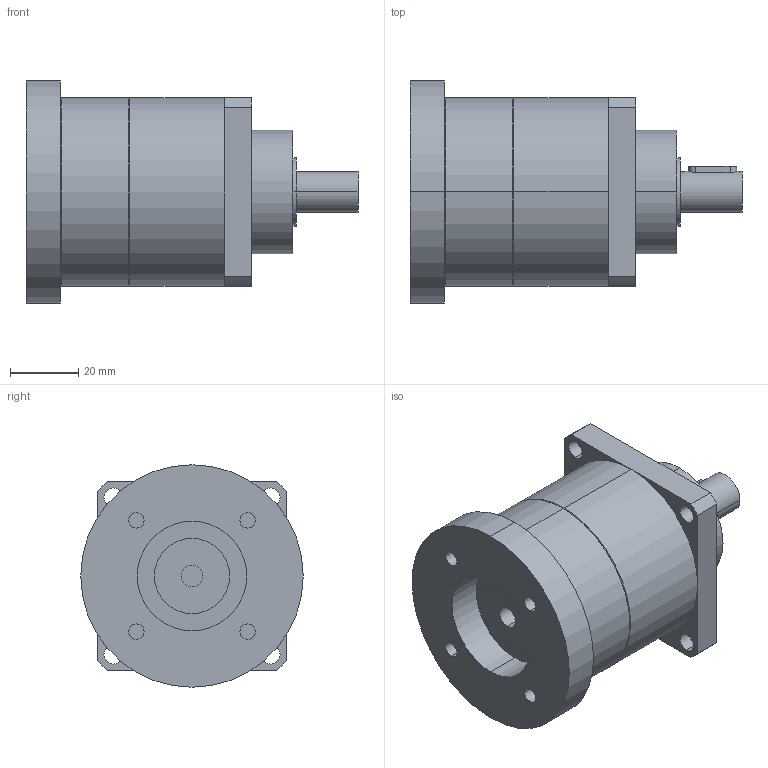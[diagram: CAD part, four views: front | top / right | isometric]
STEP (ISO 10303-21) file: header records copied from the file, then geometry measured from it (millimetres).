
FILE_DESCRIPTION(('CoCreate Modeling STEP Export'),'2;1');
FILE_NAME('GPT55_ig-3-4-5-7-10_12_B5A_6.35_P12.stp','2014-08-25T14:32:01',(''),(''),'CoCreate Modeling STEP processor for AP214 (Solid Model)','CoCreate Modeling 16.00C 25-Feb-2009 (C) Parametric Technology GmbH','');
FILE_SCHEMA(('AUTOMOTIVE_DESIGN { 1 0 10303 214 1 1 1 1 }'));
Length unit declared in the file: millimetre
Products named in the file (2): GPT55_ig-3-4-5-7-10_12_B5A_6.35_P12
Assembly tree (1 placements, depth 2):
  GPT55_ig-3-4-5-7-10_12_B5A_6.35_P12
    GPT55_ig-3-4-5-7-10_12_B5A_6.35_P12
Bounding box: 97 x 65 x 65 mm (x, y, z)
Volume: 176787.2 mm3; surface area: 24976.5 mm2
Topology: 1 solids, 1 shells, 72 faces, 180 edges, 123 vertices
Faces by surface type: cylinder 42, plane 26, cone 4
Entity records: 2237 total; most frequent: CARTESIAN_POINT 661, ORIENTED_EDGE 360, DIRECTION 268, EDGE_CURVE 180, VERTEX_POINT 123, AXIS2_PLACEMENT_3D 100, EDGE_LOOP 93, FACE_OUTER_BOUND 72
